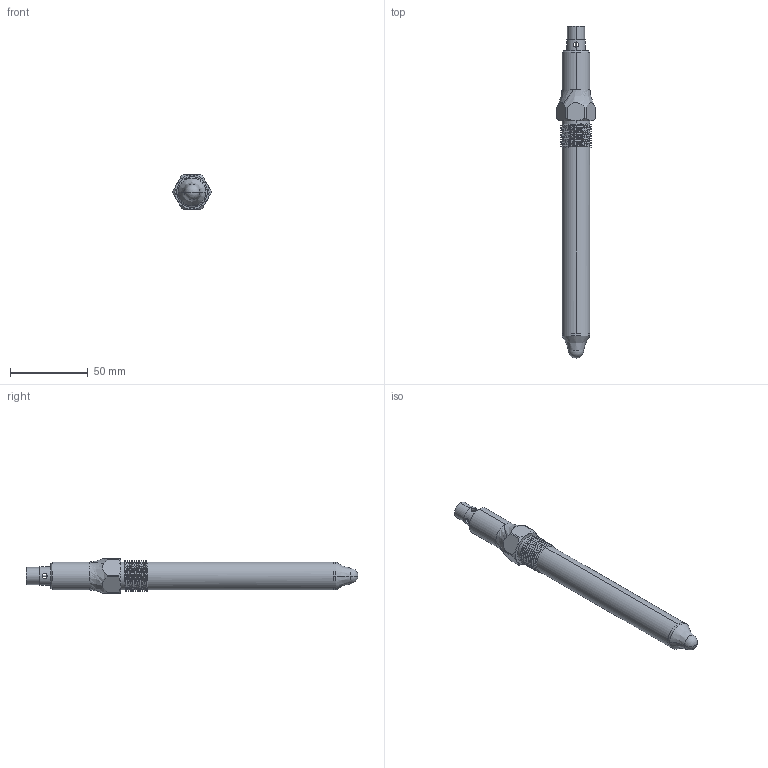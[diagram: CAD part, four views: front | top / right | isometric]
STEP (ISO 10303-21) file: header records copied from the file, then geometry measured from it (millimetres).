
FILE_DESCRIPTION (( 'STEP AP214' ), '1' );
FILE_NAME ('BLM1P3A-150.STEP', '2025-11-06T03:33:23', ( '' ), ( '' ), 'SwSTEP 2.0', 'SolidWorks 2025', '' );
FILE_SCHEMA (( 'AUTOMOTIVE_DESIGN' ));
Length unit declared in the file: millimetre
Products named in the file (1): BLM1P3A-150
Bounding box: 24.83 x 214 x 22 mm (x, y, z)
Volume: 51384.2 mm3; surface area: 13890.1 mm2
Topology: 2 solids, 2 shells, 93 faces, 250 edges, 155 vertices
Faces by surface type: cylinder 47, plane 21, sphere 10, cone 8, bspline 7
Entity records: 5221 total; most frequent: CARTESIAN_POINT 3166, ORIENTED_EDGE 470, DIRECTION 362, EDGE_CURVE 235, VERTEX_POINT 150, AXIS2_PLACEMENT_3D 144, EDGE_LOOP 105, FACE_OUTER_BOUND 93
